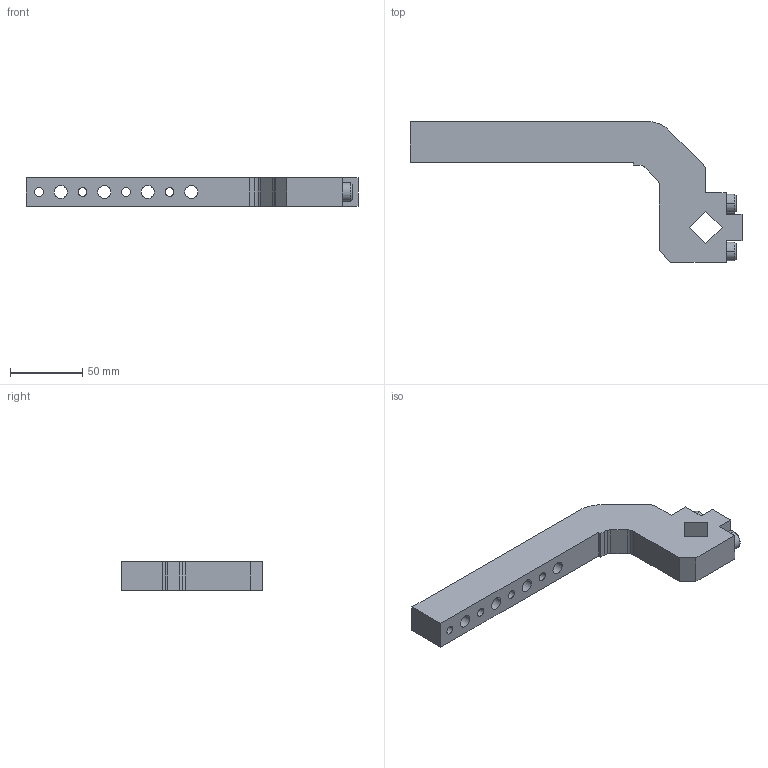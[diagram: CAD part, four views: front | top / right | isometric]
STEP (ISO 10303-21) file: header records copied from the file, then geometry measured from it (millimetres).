
FILE_DESCRIPTION((''),'2;1');
FILE_NAME('S:\Matthew\Step Files\XM Power Clamps\XJ50-04.stp','2006-06-28T08:08:21',('Matthew'),(''),'Autodesk Inventor 8','Autodesk Inventor 8','');
FILE_SCHEMA(('AUTOMOTIVE_DESIGN { 1 0 10303 214 1 1 1 1 }'));
Length unit declared in the file: millimetre
Products named in the file (1): XJ50-04
Bounding box: 229 x 97 x 20 mm (x, y, z)
Volume: 153292.4 mm3; surface area: 35215.4 mm2
Topology: 1 solids, 1 shells, 71 faces, 191 edges, 126 vertices
Faces by surface type: plane 39, cylinder 28, cone 4
Entity records: 2292 total; most frequent: DIRECTION 395, CARTESIAN_POINT 389, ORIENTED_EDGE 382, EDGE_CURVE 191, AXIS2_PLACEMENT_3D 132, VECTOR 131, LINE 131, VERTEX_POINT 126
